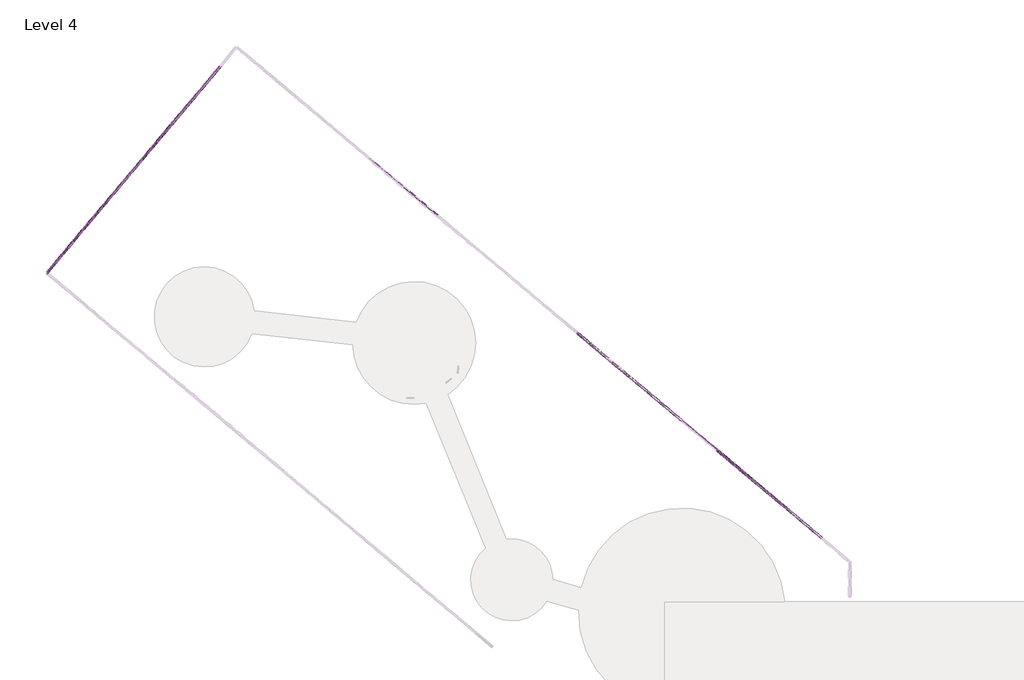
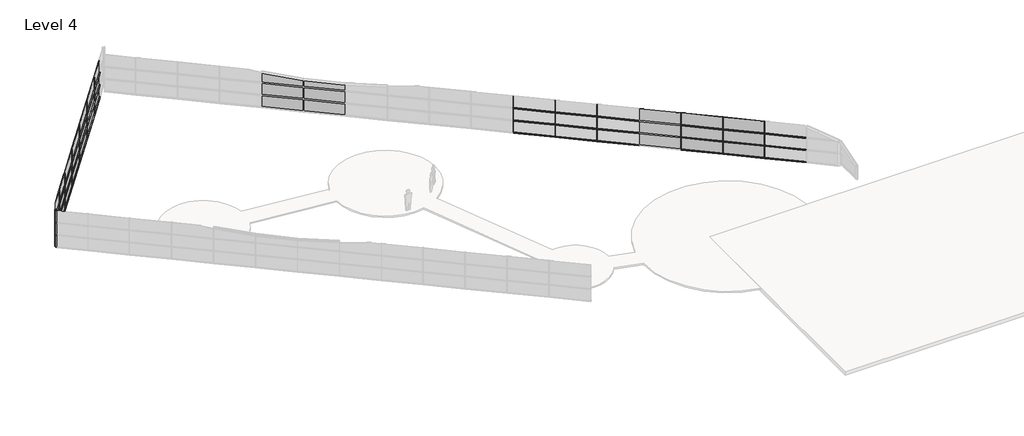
# One storey, part 3 of 4: 78 members, 36 plates.
"""IFC4 building model written with IfcOpenShell, lengths in millimetres."""

from ifc_helpers import new_model, si_unit, origin, place, context, project, spatial, transform, mapped, element, save
from components import member_e6b937b8, member_eaba9652, member_7cbddb58, member_117cba67, member_387caf8a, system_panel_glazed_a2c5a472, system_panel_glazed_3c43611c, system_panel_glazed_c349e88e, system_panel_glazed_d34325c2, system_panel_glazed_21f896d7

model = new_model("IFC4")

# Units and contexts
model_context = context("Model", 3, world=origin())
ifc_project = project(units=[si_unit("LENGTHUNIT", "METRE", prefix="MILLI")], contexts=[model_context])

# Site, building, storey
site = spatial("IfcSite", under=ifc_project)
building = spatial("IfcBuilding", under=site)
storey = spatial("IfcBuildingStorey", under=building, Name="Level 4", Elevation=9144.0)

# Members
placement = place(None, origin())
member_shape = member_e6b937b8(model_context)
element("IfcMember", 1, ObjectType="Rectangular Mullion : 1.5\" x 2.5\" rectangular", at=placement, inside=storey, context=model_context, shape_type="MappedRepresentation", body=[
    mapped(member_shape, transform((-58047.6752037, 33669.3461699, 11021.2974171), x_axis=(0.6427876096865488, 0.7660444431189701, 0.0), y_axis=(-0.7660444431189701, 0.6427876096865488, 0.0), z_axis=(0.0, 0.0, 1.0))),
])
element("IfcMember", 2, ObjectType="Rectangular Mullion : 1.5\" x 2.5\" rectangular", at=placement, inside=storey, context=model_context, shape_type="MappedRepresentation", body=[
    mapped(member_shape, transform((-56676.2235597, 35303.7785937, 11021.2974171), x_axis=(0.6427876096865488, 0.7660444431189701, 0.0), y_axis=(-0.7660444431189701, 0.6427876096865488, 0.0), z_axis=(0.0, 0.0, 1.0))),
])
element("IfcMember", 3, ObjectType="Rectangular Mullion : 1.5\" x 2.5\" rectangular", at=placement, inside=storey, context=model_context, shape_type="MappedRepresentation", body=[
    mapped(member_shape, transform((-54717.0069254, 37638.6820564, 11021.2974171), x_axis=(0.6427876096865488, 0.7660444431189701, 0.0), y_axis=(-0.7660444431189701, 0.6427876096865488, 0.0), z_axis=(0.0, 0.0, 1.0))),
])
element("IfcMember", 4, ObjectType="Rectangular Mullion : 1.5\" x 2.5\" rectangular", at=placement, inside=storey, context=model_context, shape_type="MappedRepresentation", body=[
    mapped(member_shape, transform((-52757.790291, 39973.585519, 11021.2974171), x_axis=(0.6427876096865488, 0.7660444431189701, 0.0), y_axis=(-0.7660444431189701, 0.6427876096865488, 0.0), z_axis=(0.0, 0.0, 1.0))),
])
element("IfcMember", 5, ObjectType="Rectangular Mullion : 1.5\" x 2.5\" rectangular", at=placement, inside=storey, context=model_context, shape_type="MappedRepresentation", body=[
    mapped(member_shape, transform((-58047.6752037, 33669.3461699, 12088.0974171), x_axis=(0.6427876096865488, 0.7660444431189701, 0.0), y_axis=(-0.7660444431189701, 0.6427876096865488, 0.0), z_axis=(0.0, 0.0, 1.0))),
])
element("IfcMember", 6, ObjectType="Rectangular Mullion : 1.5\" x 2.5\" rectangular", at=placement, inside=storey, context=model_context, shape_type="MappedRepresentation", body=[
    mapped(member_shape, transform((-56676.2235597, 35303.7785937, 12088.0974171), x_axis=(0.6427876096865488, 0.7660444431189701, 0.0), y_axis=(-0.7660444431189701, 0.6427876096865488, 0.0), z_axis=(0.0, 0.0, 1.0))),
])
element("IfcMember", 7, ObjectType="Rectangular Mullion : 1.5\" x 2.5\" rectangular", at=placement, inside=storey, context=model_context, shape_type="MappedRepresentation", body=[
    mapped(member_shape, transform((-54717.0069254, 37638.6820564, 12088.0974171), x_axis=(0.6427876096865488, 0.7660444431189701, 0.0), y_axis=(-0.7660444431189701, 0.6427876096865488, 0.0), z_axis=(0.0, 0.0, 1.0))),
])
element("IfcMember", 8, ObjectType="Rectangular Mullion : 1.5\" x 2.5\" rectangular", at=placement, inside=storey, context=model_context, shape_type="MappedRepresentation", body=[
    mapped(member_shape, transform((-52757.790291, 39973.585519, 12088.0974171), x_axis=(0.6427876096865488, 0.7660444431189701, 0.0), y_axis=(-0.7660444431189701, 0.6427876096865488, 0.0), z_axis=(0.0, 0.0, 1.0))),
])
element("IfcMember", 9, ObjectType="Rectangular Mullion : 1.5\" x 2.5\" rectangular", at=placement, inside=storey, context=model_context, shape_type="MappedRepresentation", body=[
    mapped(member_shape, transform((-58047.6752037, 33669.3461699, 13154.8974171), x_axis=(0.6427876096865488, 0.7660444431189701, 0.0), y_axis=(-0.7660444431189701, 0.6427876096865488, 0.0), z_axis=(0.0, 0.0, 1.0))),
])
element("IfcMember", 10, ObjectType="Rectangular Mullion : 1.5\" x 2.5\" rectangular", at=placement, inside=storey, context=model_context, shape_type="MappedRepresentation", body=[
    mapped(member_shape, transform((-56676.2235597, 35303.7785937, 13154.8974171), x_axis=(0.6427876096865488, 0.7660444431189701, 0.0), y_axis=(-0.7660444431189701, 0.6427876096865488, 0.0), z_axis=(0.0, 0.0, 1.0))),
])
element("IfcMember", 11, ObjectType="Rectangular Mullion : 1.5\" x 2.5\" rectangular", at=placement, inside=storey, context=model_context, shape_type="MappedRepresentation", body=[
    mapped(member_shape, transform((-54717.0069254, 37638.6820564, 13154.8974171), x_axis=(0.6427876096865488, 0.7660444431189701, 0.0), y_axis=(-0.7660444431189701, 0.6427876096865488, 0.0), z_axis=(0.0, 0.0, 1.0))),
])
element("IfcMember", 12, ObjectType="Rectangular Mullion : 1.5\" x 2.5\" rectangular", at=placement, inside=storey, context=model_context, shape_type="MappedRepresentation", body=[
    mapped(member_shape, transform((-52757.790291, 39973.585519, 13154.8974171), x_axis=(0.6427876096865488, 0.7660444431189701, 0.0), y_axis=(-0.7660444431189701, 0.6427876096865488, 0.0), z_axis=(0.0, 0.0, 1.0))),
])
element("IfcMember", 13, ObjectType="Rectangular Mullion : 1.5\" x 2.5\" rectangular", at=placement, inside=storey, context=model_context, shape_type="MappedRepresentation", body=[
    mapped(member_shape, transform((-50798.5736567, 42308.4889816, 11021.2974171), x_axis=(0.6427876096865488, 0.7660444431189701, 0.0), y_axis=(-0.7660444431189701, 0.6427876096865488, 0.0), z_axis=(0.0, 0.0, 1.0))),
])
element("IfcMember", 14, ObjectType="Rectangular Mullion : 1.5\" x 2.5\" rectangular", at=placement, inside=storey, context=model_context, shape_type="MappedRepresentation", body=[
    mapped(member_shape, transform((-48839.3570224, 44643.3924442, 11021.2974171), x_axis=(0.6427876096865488, 0.7660444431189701, 0.0), y_axis=(-0.7660444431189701, 0.6427876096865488, 0.0), z_axis=(0.0, 0.0, 1.0))),
])
element("IfcMember", 15, ObjectType="Rectangular Mullion : 1.5\" x 2.5\" rectangular", at=placement, inside=storey, context=model_context, shape_type="MappedRepresentation", body=[
    mapped(member_shape, transform((-50798.5736567, 42308.4889816, 12088.0974171), x_axis=(0.6427876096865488, 0.7660444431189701, 0.0), y_axis=(-0.7660444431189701, 0.6427876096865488, 0.0), z_axis=(0.0, 0.0, 1.0))),
])
element("IfcMember", 16, ObjectType="Rectangular Mullion : 1.5\" x 2.5\" rectangular", at=placement, inside=storey, context=model_context, shape_type="MappedRepresentation", body=[
    mapped(member_shape, transform((-48839.3570224, 44643.3924442, 12088.0974171), x_axis=(0.6427876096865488, 0.7660444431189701, 0.0), y_axis=(-0.7660444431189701, 0.6427876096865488, 0.0), z_axis=(0.0, 0.0, 1.0))),
])
element("IfcMember", 17, ObjectType="Rectangular Mullion : 1.5\" x 2.5\" rectangular", at=placement, inside=storey, context=model_context, shape_type="MappedRepresentation", body=[
    mapped(member_shape, transform((-50798.5736567, 42308.4889816, 13154.8974171), x_axis=(0.6427876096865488, 0.7660444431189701, 0.0), y_axis=(-0.7660444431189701, 0.6427876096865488, 0.0), z_axis=(0.0, 0.0, 1.0))),
])
element("IfcMember", 18, ObjectType="Rectangular Mullion : 1.5\" x 2.5\" rectangular", at=placement, inside=storey, context=model_context, shape_type="MappedRepresentation", body=[
    mapped(member_shape, transform((-48839.3570224, 44643.3924442, 13154.8974171), x_axis=(0.6427876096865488, 0.7660444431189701, 0.0), y_axis=(-0.7660444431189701, 0.6427876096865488, 0.0), z_axis=(0.0, 0.0, 1.0))),
])
element("IfcMember", 19, ObjectType="Rectangular Mullion : 1.5\" x 2.5\" rectangular", at=placement, inside=storey, context=model_context, shape_type="MappedRepresentation", body=[
    mapped(member_shape, transform((-23592.0192741, 28385.3349072, 10400.7444177), x_axis=(0.76604444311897, -0.6427876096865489, 0.0), y_axis=(0.6427876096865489, 0.76604444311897, 0.0), z_axis=(0.0, 0.0, 1.0))),
])
element("IfcMember", 20, ObjectType="Rectangular Mullion : 1.5\" x 2.5\" rectangular", at=placement, inside=storey, context=model_context, shape_type="MappedRepresentation", body=[
    mapped(member_shape, transform((-21257.1158115, 26426.1182729, 10400.7444177), x_axis=(0.76604444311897, -0.6427876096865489, 0.0), y_axis=(0.6427876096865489, 0.76604444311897, 0.0), z_axis=(0.0, 0.0, 1.0))),
])
element("IfcMember", 21, ObjectType="Rectangular Mullion : 1.5\" x 2.5\" rectangular", at=placement, inside=storey, context=model_context, shape_type="MappedRepresentation", body=[
    mapped(member_shape, transform((-23592.0192741, 28385.3349072, 11467.5444177), x_axis=(0.76604444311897, -0.6427876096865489, 0.0), y_axis=(0.6427876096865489, 0.76604444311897, 0.0), z_axis=(0.0, 0.0, 1.0))),
])
element("IfcMember", 22, ObjectType="Rectangular Mullion : 1.5\" x 2.5\" rectangular", at=placement, inside=storey, context=model_context, shape_type="MappedRepresentation", body=[
    mapped(member_shape, transform((-21257.1158115, 26426.1182729, 11467.5444177), x_axis=(0.76604444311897, -0.6427876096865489, 0.0), y_axis=(0.6427876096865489, 0.76604444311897, 0.0), z_axis=(0.0, 0.0, 1.0))),
])
element("IfcMember", 23, ObjectType="Rectangular Mullion : 1.5\" x 2.5\" rectangular", at=placement, inside=storey, context=model_context, shape_type="MappedRepresentation", body=[
    mapped(member_shape, transform((-23592.0192741, 28385.3349072, 12534.3444177), x_axis=(0.76604444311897, -0.6427876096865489, 0.0), y_axis=(0.6427876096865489, 0.76604444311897, 0.0), z_axis=(0.0, 0.0, 1.0))),
])
element("IfcMember", 24, ObjectType="Rectangular Mullion : 1.5\" x 2.5\" rectangular", at=placement, inside=storey, context=model_context, shape_type="MappedRepresentation", body=[
    mapped(member_shape, transform((-21257.1158115, 26426.1182729, 12534.3444177), x_axis=(0.76604444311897, -0.6427876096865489, 0.0), y_axis=(0.6427876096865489, 0.76604444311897, 0.0), z_axis=(0.0, 0.0, 1.0))),
])
element("IfcMember", 25, ObjectType="Rectangular Mullion : 1.5\" x 2.5\" rectangular", at=placement, inside=storey, context=model_context, shape_type="MappedRepresentation", body=[
    mapped(member_shape, transform((-18922.2123489, 24466.9016385, 10400.7444177), x_axis=(0.76604444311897, -0.6427876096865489, 0.0), y_axis=(0.6427876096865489, 0.76604444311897, 0.0), z_axis=(0.0, 0.0, 1.0))),
])
element("IfcMember", 26, ObjectType="Rectangular Mullion : 1.5\" x 2.5\" rectangular", at=placement, inside=storey, context=model_context, shape_type="MappedRepresentation", body=[
    mapped(member_shape, transform((-14252.4054236, 20548.4683699, 10400.7444177), x_axis=(0.76604444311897, -0.6427876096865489, 0.0), y_axis=(0.6427876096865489, 0.76604444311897, 0.0), z_axis=(0.0, 0.0, 1.0))),
])
element("IfcMember", 27, ObjectType="Rectangular Mullion : 1.5\" x 2.5\" rectangular", at=placement, inside=storey, context=model_context, shape_type="MappedRepresentation", body=[
    mapped(member_shape, transform((-11917.501961, 18589.2517356, 10400.7444177), x_axis=(0.76604444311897, -0.6427876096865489, 0.0), y_axis=(0.6427876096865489, 0.76604444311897, 0.0), z_axis=(0.0, 0.0, 1.0))),
])
element("IfcMember", 28, ObjectType="Rectangular Mullion : 1.5\" x 2.5\" rectangular", at=placement, inside=storey, context=model_context, shape_type="MappedRepresentation", body=[
    mapped(member_shape, transform((-9582.5984984, 16630.0351012, 10400.7444177), x_axis=(0.76604444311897, -0.6427876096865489, 0.0), y_axis=(0.6427876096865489, 0.76604444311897, 0.0), z_axis=(0.0, 0.0, 1.0))),
])
element("IfcMember", 29, ObjectType="Rectangular Mullion : 1.5\" x 2.5\" rectangular", at=placement, inside=storey, context=model_context, shape_type="MappedRepresentation", body=[
    mapped(member_shape, transform((-18922.2123489, 24466.9016385, 11467.5444177), x_axis=(0.76604444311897, -0.6427876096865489, 0.0), y_axis=(0.6427876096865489, 0.76604444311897, 0.0), z_axis=(0.0, 0.0, 1.0))),
])
element("IfcMember", 30, ObjectType="Rectangular Mullion : 1.5\" x 2.5\" rectangular", at=placement, inside=storey, context=model_context, shape_type="MappedRepresentation", body=[
    mapped(member_shape, transform((-14252.4054236, 20548.4683699, 11467.5444177), x_axis=(0.76604444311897, -0.6427876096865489, 0.0), y_axis=(0.6427876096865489, 0.76604444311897, 0.0), z_axis=(0.0, 0.0, 1.0))),
])
element("IfcMember", 31, ObjectType="Rectangular Mullion : 1.5\" x 2.5\" rectangular", at=placement, inside=storey, context=model_context, shape_type="MappedRepresentation", body=[
    mapped(member_shape, transform((-11917.501961, 18589.2517356, 11467.5444177), x_axis=(0.76604444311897, -0.6427876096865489, 0.0), y_axis=(0.6427876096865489, 0.76604444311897, 0.0), z_axis=(0.0, 0.0, 1.0))),
])
element("IfcMember", 32, ObjectType="Rectangular Mullion : 1.5\" x 2.5\" rectangular", at=placement, inside=storey, context=model_context, shape_type="MappedRepresentation", body=[
    mapped(member_shape, transform((-9582.5984984, 16630.0351012, 11467.5444177), x_axis=(0.76604444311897, -0.6427876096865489, 0.0), y_axis=(0.6427876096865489, 0.76604444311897, 0.0), z_axis=(0.0, 0.0, 1.0))),
])
element("IfcMember", 33, ObjectType="Rectangular Mullion : 1.5\" x 2.5\" rectangular", at=placement, inside=storey, context=model_context, shape_type="MappedRepresentation", body=[
    mapped(member_shape, transform((-18922.2123489, 24466.9016385, 12534.3444177), x_axis=(0.76604444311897, -0.6427876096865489, 0.0), y_axis=(0.6427876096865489, 0.76604444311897, 0.0), z_axis=(0.0, 0.0, 1.0))),
])
element("IfcMember", 34, ObjectType="Rectangular Mullion : 1.5\" x 2.5\" rectangular", at=placement, inside=storey, context=model_context, shape_type="MappedRepresentation", body=[
    mapped(member_shape, transform((-14252.4054236, 20548.4683699, 12534.3444177), x_axis=(0.76604444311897, -0.6427876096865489, 0.0), y_axis=(0.6427876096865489, 0.76604444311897, 0.0), z_axis=(0.0, 0.0, 1.0))),
])
element("IfcMember", 35, ObjectType="Rectangular Mullion : 1.5\" x 2.5\" rectangular", at=placement, inside=storey, context=model_context, shape_type="MappedRepresentation", body=[
    mapped(member_shape, transform((-11917.501961, 18589.2517356, 12534.3444177), x_axis=(0.76604444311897, -0.6427876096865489, 0.0), y_axis=(0.6427876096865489, 0.76604444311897, 0.0), z_axis=(0.0, 0.0, 1.0))),
])
element("IfcMember", 36, ObjectType="Rectangular Mullion : 1.5\" x 2.5\" rectangular", at=placement, inside=storey, context=model_context, shape_type="MappedRepresentation", body=[
    mapped(member_shape, transform((-9582.5984984, 16630.0351012, 12534.3444177), x_axis=(0.76604444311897, -0.6427876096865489, 0.0), y_axis=(0.6427876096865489, 0.76604444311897, 0.0), z_axis=(0.0, 0.0, 1.0))),
])
member_2_shape = member_eaba9652(model_context)
element("IfcMember", 37, ObjectType="Rectangular Mullion : 2.5\" x 5\" rectangular", at=placement, inside=storey, context=model_context, shape_type="MappedRepresentation", body=[
    mapped(member_2_shape, transform((-56676.2235597, 35303.7785937, 9986.2474171), x_axis=(0.0, 0.0, 1.0), y_axis=(-0.7660444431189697, 0.6427876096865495, 0.0), z_axis=(-0.6427876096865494, -0.7660444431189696, 0.0))),
])
element("IfcMember", 38, ObjectType="Rectangular Mullion : 2.5\" x 5\" rectangular", at=placement, inside=storey, context=model_context, shape_type="MappedRepresentation", body=[
    mapped(member_2_shape, transform((-54717.0069254, 37638.6820564, 9986.2474171), x_axis=(0.0, 0.0, 1.0), y_axis=(-0.7660444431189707, 0.6427876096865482, 0.0), z_axis=(-0.6427876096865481, -0.7660444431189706, 0.0))),
])
element("IfcMember", 39, ObjectType="Rectangular Mullion : 2.5\" x 5\" rectangular", at=placement, inside=storey, context=model_context, shape_type="MappedRepresentation", body=[
    mapped(member_2_shape, transform((-52757.790291, 39973.585519, 9986.2474171), x_axis=(0.0, 0.0, 1.0), y_axis=(-0.76604444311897, 0.642787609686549, 0.0), z_axis=(-0.6427876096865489, -0.7660444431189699, 0.0))),
])
element("IfcMember", 40, ObjectType="Rectangular Mullion : 2.5\" x 5\" rectangular", at=placement, inside=storey, context=model_context, shape_type="MappedRepresentation", body=[
    mapped(member_2_shape, transform((-56676.2235597, 35303.7785937, 11053.0474171), x_axis=(0.0, 0.0, 1.0), y_axis=(-0.7660444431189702, 0.6427876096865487, 0.0), z_axis=(-0.6427876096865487, -0.7660444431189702, 0.0))),
])
element("IfcMember", 41, ObjectType="Rectangular Mullion : 2.5\" x 5\" rectangular", at=placement, inside=storey, context=model_context, shape_type="MappedRepresentation", body=[
    mapped(member_2_shape, transform((-54717.0069254, 37638.6820564, 11053.0474171), x_axis=(0.0, 0.0, 1.0), y_axis=(-0.76604444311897, 0.642787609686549, 0.0), z_axis=(-0.6427876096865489, -0.7660444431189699, 0.0))),
])
element("IfcMember", 42, ObjectType="Rectangular Mullion : 2.5\" x 5\" rectangular", at=placement, inside=storey, context=model_context, shape_type="MappedRepresentation", body=[
    mapped(member_2_shape, transform((-52757.790291, 39973.585519, 11053.0474171), x_axis=(0.0, 0.0, 1.0), y_axis=(-0.76604444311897, 0.642787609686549, 0.0), z_axis=(-0.6427876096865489, -0.7660444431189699, 0.0))),
])
element("IfcMember", 43, ObjectType="Rectangular Mullion : 2.5\" x 5\" rectangular", at=placement, inside=storey, context=model_context, shape_type="MappedRepresentation", body=[
    mapped(member_2_shape, transform((-56676.2235597, 35303.7785937, 12119.8474171), x_axis=(0.0, 0.0, 1.0), y_axis=(-0.7660444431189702, 0.6427876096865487, 0.0), z_axis=(-0.6427876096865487, -0.7660444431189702, 0.0))),
])
element("IfcMember", 44, ObjectType="Rectangular Mullion : 2.5\" x 5\" rectangular", at=placement, inside=storey, context=model_context, shape_type="MappedRepresentation", body=[
    mapped(member_2_shape, transform((-54717.0069254, 37638.6820564, 12119.8474171), x_axis=(0.0, 0.0, 1.0), y_axis=(-0.76604444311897, 0.642787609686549, 0.0), z_axis=(-0.6427876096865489, -0.7660444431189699, 0.0))),
])
element("IfcMember", 45, ObjectType="Rectangular Mullion : 2.5\" x 5\" rectangular", at=placement, inside=storey, context=model_context, shape_type="MappedRepresentation", body=[
    mapped(member_2_shape, transform((-52757.790291, 39973.585519, 12119.8474171), x_axis=(0.0, 0.0, 1.0), y_axis=(-0.76604444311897, 0.642787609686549, 0.0), z_axis=(-0.6427876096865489, -0.7660444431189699, 0.0))),
])
element("IfcMember", 46, ObjectType="Rectangular Mullion : 2.5\" x 5\" rectangular", at=placement, inside=storey, context=model_context, shape_type="MappedRepresentation", body=[
    mapped(member_2_shape, transform((-50798.5736567, 42308.4889816, 9986.2474171), x_axis=(0.0, 0.0, 1.0), y_axis=(-0.766044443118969, 0.64278760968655, 0.0), z_axis=(-0.64278760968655, -0.766044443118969, 0.0))),
])
element("IfcMember", 47, ObjectType="Rectangular Mullion : 2.5\" x 5\" rectangular", at=placement, inside=storey, context=model_context, shape_type="MappedRepresentation", body=[
    mapped(member_2_shape, transform((-50798.5736567, 42308.4889816, 11053.0474171), x_axis=(0.0, 0.0, 1.0), y_axis=(-0.766044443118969, 0.64278760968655, 0.0), z_axis=(-0.64278760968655, -0.766044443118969, 0.0))),
])
element("IfcMember", 48, ObjectType="Rectangular Mullion : 2.5\" x 5\" rectangular", at=placement, inside=storey, context=model_context, shape_type="MappedRepresentation", body=[
    mapped(member_2_shape, transform((-50798.5736567, 42308.4889816, 12119.8474171), x_axis=(0.0, 0.0, 1.0), y_axis=(-0.766044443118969, 0.64278760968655, 0.0), z_axis=(-0.64278760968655, -0.766044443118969, 0.0))),
])
element("IfcMember", 49, ObjectType="Rectangular Mullion : 2.5\" x 5\" rectangular", at=placement, inside=storey, context=model_context, shape_type="MappedRepresentation", body=[
    mapped(member_2_shape, transform((-23592.0192741, 28385.3349072, 9365.6944177), x_axis=(0.0, 0.0, 1.0), y_axis=(0.64278760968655, 0.766044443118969, 0.0), z_axis=(-0.766044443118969, 0.64278760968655, 0.0))),
])
element("IfcMember", 50, ObjectType="Rectangular Mullion : 2.5\" x 5\" rectangular", at=placement, inside=storey, context=model_context, shape_type="MappedRepresentation", body=[
    mapped(member_2_shape, transform((-21257.1158115, 26426.1182729, 9365.6944177), x_axis=(0.0, 0.0, 1.0), y_axis=(0.6427876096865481, 0.7660444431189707, 0.0), z_axis=(-0.7660444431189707, 0.6427876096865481, 0.0))),
])
element("IfcMember", 51, ObjectType="Rectangular Mullion : 2.5\" x 5\" rectangular", at=placement, inside=storey, context=model_context, shape_type="MappedRepresentation", body=[
    mapped(member_2_shape, transform((-23592.0192741, 28385.3349072, 10432.4944177), x_axis=(0.0, 0.0, 1.0), y_axis=(0.64278760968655, 0.766044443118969, 0.0), z_axis=(-0.766044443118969, 0.64278760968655, 0.0))),
])
element("IfcMember", 52, ObjectType="Rectangular Mullion : 2.5\" x 5\" rectangular", at=placement, inside=storey, context=model_context, shape_type="MappedRepresentation", body=[
    mapped(member_2_shape, transform((-21257.1158115, 26426.1182729, 10432.4944177), x_axis=(0.0, 0.0, 1.0), y_axis=(0.6427876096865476, 0.7660444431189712, 0.0), z_axis=(-0.7660444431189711, 0.6427876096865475, 0.0))),
])
element("IfcMember", 53, ObjectType="Rectangular Mullion : 2.5\" x 5\" rectangular", at=placement, inside=storey, context=model_context, shape_type="MappedRepresentation", body=[
    mapped(member_2_shape, transform((-23592.0192741, 28385.3349072, 11499.2944177), x_axis=(0.0, 0.0, 1.0), y_axis=(0.64278760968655, 0.766044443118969, 0.0), z_axis=(-0.766044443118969, 0.64278760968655, 0.0))),
])
element("IfcMember", 54, ObjectType="Rectangular Mullion : 2.5\" x 5\" rectangular", at=placement, inside=storey, context=model_context, shape_type="MappedRepresentation", body=[
    mapped(member_2_shape, transform((-21257.1158115, 26426.1182729, 11499.2944177), x_axis=(0.0, 0.0, 1.0), y_axis=(0.6427876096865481, 0.7660444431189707, 0.0), z_axis=(-0.7660444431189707, 0.6427876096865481, 0.0))),
])
element("IfcMember", 55, ObjectType="Rectangular Mullion : 2.5\" x 5\" rectangular", at=placement, inside=storey, context=model_context, shape_type="MappedRepresentation", body=[
    mapped(member_2_shape, transform((-18922.2123489, 24466.9016385, 9365.6944177), x_axis=(0.0, 0.0, 1.0), y_axis=(0.6427876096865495, 0.7660444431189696, 0.0), z_axis=(-0.7660444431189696, 0.6427876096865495, 0.0))),
])
element("IfcMember", 56, ObjectType="Rectangular Mullion : 2.5\" x 5\" rectangular", at=placement, inside=storey, context=model_context, shape_type="MappedRepresentation", body=[
    mapped(member_2_shape, transform((-14252.4054236, 20548.4683699, 9365.6944177), x_axis=(0.0, 0.0, 1.0), y_axis=(0.642787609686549, 0.76604444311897, 0.0), z_axis=(-0.7660444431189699, 0.6427876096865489, 0.0))),
])
element("IfcMember", 57, ObjectType="Rectangular Mullion : 2.5\" x 5\" rectangular", at=placement, inside=storey, context=model_context, shape_type="MappedRepresentation", body=[
    mapped(member_2_shape, transform((-11917.501961, 18589.2517356, 9365.6944177), x_axis=(0.0, 0.0, 1.0), y_axis=(0.6427876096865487, 0.7660444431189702, 0.0), z_axis=(-0.7660444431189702, 0.6427876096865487, 0.0))),
])
element("IfcMember", 58, ObjectType="Rectangular Mullion : 2.5\" x 5\" rectangular", at=placement, inside=storey, context=model_context, shape_type="MappedRepresentation", body=[
    mapped(member_2_shape, transform((-9582.5984984, 16630.0351012, 9365.6944177), x_axis=(0.0, 0.0, 1.0), y_axis=(0.6427876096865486, 0.7660444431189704, 0.0), z_axis=(-0.7660444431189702, 0.6427876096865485, 0.0))),
])
element("IfcMember", 59, ObjectType="Rectangular Mullion : 2.5\" x 5\" rectangular", at=placement, inside=storey, context=model_context, shape_type="MappedRepresentation", body=[
    mapped(member_2_shape, transform((-18922.2123489, 24466.9016385, 10432.4944177), x_axis=(0.0, 0.0, 1.0), y_axis=(0.6427876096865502, 0.7660444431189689, 0.0), z_axis=(-0.7660444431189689, 0.6427876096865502, 0.0))),
])
element("IfcMember", 60, ObjectType="Rectangular Mullion : 2.5\" x 5\" rectangular", at=placement, inside=storey, context=model_context, shape_type="MappedRepresentation", body=[
    mapped(member_2_shape, transform((-14252.4054236, 20548.4683699, 10432.4944177), x_axis=(0.0, 0.0, 1.0), y_axis=(0.642787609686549, 0.76604444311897, 0.0), z_axis=(-0.7660444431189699, 0.6427876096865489, 0.0))),
])
element("IfcMember", 61, ObjectType="Rectangular Mullion : 2.5\" x 5\" rectangular", at=placement, inside=storey, context=model_context, shape_type="MappedRepresentation", body=[
    mapped(member_2_shape, transform((-11917.501961, 18589.2517356, 10432.4944177), x_axis=(0.0, 0.0, 1.0), y_axis=(0.6427876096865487, 0.7660444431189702, 0.0), z_axis=(-0.7660444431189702, 0.6427876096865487, 0.0))),
])
element("IfcMember", 62, ObjectType="Rectangular Mullion : 2.5\" x 5\" rectangular", at=placement, inside=storey, context=model_context, shape_type="MappedRepresentation", body=[
    mapped(member_2_shape, transform((-9582.5984984, 16630.0351012, 10432.4944177), x_axis=(0.0, 0.0, 1.0), y_axis=(0.6427876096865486, 0.7660444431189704, 0.0), z_axis=(-0.7660444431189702, 0.6427876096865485, 0.0))),
])
element("IfcMember", 63, ObjectType="Rectangular Mullion : 2.5\" x 5\" rectangular", at=placement, inside=storey, context=model_context, shape_type="MappedRepresentation", body=[
    mapped(member_2_shape, transform((-18922.2123489, 24466.9016385, 11499.2944177), x_axis=(0.0, 0.0, 1.0), y_axis=(0.6427876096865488, 0.7660444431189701, 0.0), z_axis=(-0.7660444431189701, 0.6427876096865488, 0.0))),
])
element("IfcMember", 64, ObjectType="Rectangular Mullion : 2.5\" x 5\" rectangular", at=placement, inside=storey, context=model_context, shape_type="MappedRepresentation", body=[
    mapped(member_2_shape, transform((-14252.4054236, 20548.4683699, 11499.2944177), x_axis=(0.0, 0.0, 1.0), y_axis=(0.642787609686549, 0.76604444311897, 0.0), z_axis=(-0.7660444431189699, 0.6427876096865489, 0.0))),
])
element("IfcMember", 65, ObjectType="Rectangular Mullion : 2.5\" x 5\" rectangular", at=placement, inside=storey, context=model_context, shape_type="MappedRepresentation", body=[
    mapped(member_2_shape, transform((-11917.501961, 18589.2517356, 11499.2944177), x_axis=(0.0, 0.0, 1.0), y_axis=(0.6427876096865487, 0.7660444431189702, 0.0), z_axis=(-0.7660444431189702, 0.6427876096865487, 0.0))),
])
element("IfcMember", 66, ObjectType="Rectangular Mullion : 2.5\" x 5\" rectangular", at=placement, inside=storey, context=model_context, shape_type="MappedRepresentation", body=[
    mapped(member_2_shape, transform((-9582.5984984, 16630.0351012, 11499.2944177), x_axis=(0.0, 0.0, 1.0), y_axis=(0.6427876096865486, 0.7660444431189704, 0.0), z_axis=(-0.7660444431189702, 0.6427876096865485, 0.0))),
])
member_3_shape = member_7cbddb58(model_context)
element("IfcMember", 67, ObjectType="Rectangular Mullion : 2.5\" x 5\" rectangular", at=placement, inside=storey, context=model_context, shape_type="MappedRepresentation", body=[
    mapped(member_3_shape, transform((-58047.6752037, 33669.3461699, 9986.2474171), x_axis=(0.0, 0.0, 1.0), y_axis=(-0.766044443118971, 0.6427876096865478, 0.0), z_axis=(-0.6427876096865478, -0.766044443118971, 0.0))),
])
element("IfcMember", 68, ObjectType="Rectangular Mullion : 2.5\" x 5\" rectangular", at=placement, inside=storey, context=model_context, shape_type="MappedRepresentation", body=[
    mapped(member_3_shape, transform((-58047.6752037, 33669.3461699, 11053.0474171), x_axis=(0.0, 0.0, 1.0), y_axis=(-0.766044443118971, 0.6427876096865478, 0.0), z_axis=(-0.6427876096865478, -0.766044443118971, 0.0))),
])
element("IfcMember", 69, ObjectType="Rectangular Mullion : 2.5\" x 5\" rectangular", at=placement, inside=storey, context=model_context, shape_type="MappedRepresentation", body=[
    mapped(member_3_shape, transform((-58047.6752037, 33669.3461699, 12119.8474171), x_axis=(0.0, 0.0, 1.0), y_axis=(-0.766044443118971, 0.6427876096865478, 0.0), z_axis=(-0.6427876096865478, -0.766044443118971, 0.0))),
])
element("IfcMember", 70, ObjectType="Rectangular Mullion : 2.5\" x 5\" rectangular", at=placement, inside=storey, context=model_context, shape_type="MappedRepresentation", body=[
    mapped(member_3_shape, transform((-48839.3570224, 44643.3924442, 9986.2474171), x_axis=(0.0, 0.0, 1.0), y_axis=(-0.766044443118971, 0.6427876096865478, 0.0), z_axis=(-0.6427876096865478, -0.766044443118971, 0.0))),
])
element("IfcMember", 71, ObjectType="Rectangular Mullion : 2.5\" x 5\" rectangular", at=placement, inside=storey, context=model_context, shape_type="MappedRepresentation", body=[
    mapped(member_3_shape, transform((-48839.3570224, 44643.3924442, 11053.0474171), x_axis=(0.0, 0.0, 1.0), y_axis=(-0.766044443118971, 0.6427876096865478, 0.0), z_axis=(-0.6427876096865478, -0.766044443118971, 0.0))),
])
element("IfcMember", 72, ObjectType="Rectangular Mullion : 2.5\" x 5\" rectangular", at=placement, inside=storey, context=model_context, shape_type="MappedRepresentation", body=[
    mapped(member_3_shape, transform((-48839.3570224, 44643.3924442, 12119.8474171), x_axis=(0.0, 0.0, 1.0), y_axis=(-0.766044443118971, 0.6427876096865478, 0.0), z_axis=(-0.6427876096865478, -0.766044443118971, 0.0))),
])
member_4_shape = member_117cba67(model_context)
element("IfcMember", 73, ObjectType="Rectangular Mullion : 2.5\" x 5\" rectangular", at=placement, inside=storey, context=model_context, shape_type="MappedRepresentation", body=[
    mapped(member_4_shape, transform((-59041.0592628, 32485.4771486, 9986.2474171), x_axis=(0.0, 0.0, 1.0), y_axis=(-0.76604444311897, 0.6427876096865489, 0.0), z_axis=(-0.6427876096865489, -0.76604444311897, 0.0))),
])
element("IfcMember", 74, ObjectType="Rectangular Mullion : 2.5\" x 5\" rectangular", at=placement, inside=storey, context=model_context, shape_type="MappedRepresentation", body=[
    mapped(member_4_shape, transform((-59041.0592628, 32485.4771486, 11053.0474171), x_axis=(0.0, 0.0, 1.0), y_axis=(-0.766044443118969, 0.6427876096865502, 0.0), z_axis=(-0.6427876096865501, -0.7660444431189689, 0.0))),
])
element("IfcMember", 75, ObjectType="Rectangular Mullion : 2.5\" x 5\" rectangular", at=placement, inside=storey, context=model_context, shape_type="MappedRepresentation", body=[
    mapped(member_4_shape, transform((-59041.0592628, 32485.4771486, 12119.8474171), x_axis=(0.0, 0.0, 1.0), y_axis=(-0.766044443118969, 0.6427876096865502, 0.0), z_axis=(-0.6427876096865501, -0.7660444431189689, 0.0))),
])
member_5_shape = member_387caf8a(model_context)
element("IfcMember", 76, ObjectType="V Corner Mullion : 5\" V Corner", at=placement, inside=storey, context=model_context, shape_type="MappedRepresentation", body=[
    mapped(member_5_shape, transform((-59102.2847827, 32412.5114154, 10432.4944177), x_axis=(-0.76604444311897, 0.6427876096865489, 0.0), y_axis=(-0.6427876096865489, -0.76604444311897, 0.0), z_axis=(0.0, 0.0, 1.0))),
])
element("IfcMember", 77, ObjectType="V Corner Mullion : 5\" V Corner", at=placement, inside=storey, context=model_context, shape_type="MappedRepresentation", body=[
    mapped(member_5_shape, transform((-59102.2847827, 32412.5114154, 11499.2944177), x_axis=(-0.76604444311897, 0.6427876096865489, 0.0), y_axis=(-0.6427876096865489, -0.76604444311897, 0.0), z_axis=(0.0, 0.0, 1.0))),
])
element("IfcMember", 78, ObjectType="V Corner Mullion : 5\" V Corner", at=placement, inside=storey, context=model_context, shape_type="MappedRepresentation", body=[
    mapped(member_5_shape, transform((-59102.2847827, 32412.5114154, 12566.0944177), x_axis=(-0.76604444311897, 0.6427876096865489, 0.0), y_axis=(-0.6427876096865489, -0.76604444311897, 0.0), z_axis=(0.0, 0.0, 1.0))),
])

# Plates
system_panel_glazed_shape = system_panel_glazed_a2c5a472(model_context)
element("IfcPlate", 79, ObjectType="System Panel : Glazed", at=placement, inside=storey, context=model_context, shape_type="MappedRepresentation", body=[
    mapped(system_panel_glazed_shape, transform((-36433.9883186, 39161.026396, 9397.4444177), x_axis=(0.76604444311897, -0.6427876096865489, 0.0), y_axis=(0.6427876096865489, 0.76604444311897, 0.0), z_axis=(0.0, 0.0, 1.0))),
])
element("IfcPlate", 80, ObjectType="System Panel : Glazed", at=placement, inside=storey, context=model_context, shape_type="MappedRepresentation", body=[
    mapped(system_panel_glazed_shape, transform((-34099.0848559, 37201.8097616, 9397.4444177), x_axis=(0.76604444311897, -0.6427876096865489, 0.0), y_axis=(0.6427876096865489, 0.76604444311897, 0.0), z_axis=(0.0, 0.0, 1.0))),
])
element("IfcPlate", 81, ObjectType="System Panel : Glazed", at=placement, inside=storey, context=model_context, shape_type="MappedRepresentation", body=[
    mapped(system_panel_glazed_shape, transform((-36433.9883186, 39161.026396, 10464.2444177), x_axis=(0.76604444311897, -0.6427876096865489, 0.0), y_axis=(0.6427876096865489, 0.76604444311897, 0.0), z_axis=(0.0, 0.0, 1.0))),
])
element("IfcPlate", 82, ObjectType="System Panel : Glazed", at=placement, inside=storey, context=model_context, shape_type="MappedRepresentation", body=[
    mapped(system_panel_glazed_shape, transform((-34099.0848559, 37201.8097616, 10464.2444177), x_axis=(0.76604444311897, -0.6427876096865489, 0.0), y_axis=(0.6427876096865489, 0.76604444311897, 0.0), z_axis=(0.0, 0.0, 1.0))),
])
element("IfcPlate", 83, ObjectType="System Panel : Glazed", at=placement, inside=storey, context=model_context, shape_type="MappedRepresentation", body=[
    mapped(system_panel_glazed_shape, transform((-55696.6152425, 36471.230325, 10017.9974171), x_axis=(0.6427876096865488, 0.7660444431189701, 0.0), y_axis=(-0.7660444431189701, 0.6427876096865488, 0.0), z_axis=(0.0, 0.0, 1.0))),
])
element("IfcPlate", 84, ObjectType="System Panel : Glazed", at=placement, inside=storey, context=model_context, shape_type="MappedRepresentation", body=[
    mapped(system_panel_glazed_shape, transform((-53737.3986082, 38806.1337877, 10017.9974171), x_axis=(0.6427876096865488, 0.7660444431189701, 0.0), y_axis=(-0.7660444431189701, 0.6427876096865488, 0.0), z_axis=(0.0, 0.0, 1.0))),
])
element("IfcPlate", 85, ObjectType="System Panel : Glazed", at=placement, inside=storey, context=model_context, shape_type="MappedRepresentation", body=[
    mapped(system_panel_glazed_shape, transform((-51778.1819739, 41141.0372503, 10017.9974171), x_axis=(0.6427876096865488, 0.7660444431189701, 0.0), y_axis=(-0.7660444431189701, 0.6427876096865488, 0.0), z_axis=(0.0, 0.0, 1.0))),
])
element("IfcPlate", 86, ObjectType="System Panel : Glazed", at=placement, inside=storey, context=model_context, shape_type="MappedRepresentation", body=[
    mapped(system_panel_glazed_shape, transform((-55696.6152425, 36471.230325, 11084.7974171), x_axis=(0.6427876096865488, 0.7660444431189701, 0.0), y_axis=(-0.7660444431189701, 0.6427876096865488, 0.0), z_axis=(0.0, 0.0, 1.0))),
])
element("IfcPlate", 87, ObjectType="System Panel : Glazed", at=placement, inside=storey, context=model_context, shape_type="MappedRepresentation", body=[
    mapped(system_panel_glazed_shape, transform((-53737.3986082, 38806.1337877, 11084.7974171), x_axis=(0.6427876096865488, 0.7660444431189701, 0.0), y_axis=(-0.7660444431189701, 0.6427876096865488, 0.0), z_axis=(0.0, 0.0, 1.0))),
])
element("IfcPlate", 88, ObjectType="System Panel : Glazed", at=placement, inside=storey, context=model_context, shape_type="MappedRepresentation", body=[
    mapped(system_panel_glazed_shape, transform((-51778.1819739, 41141.0372503, 11084.7974171), x_axis=(0.6427876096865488, 0.7660444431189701, 0.0), y_axis=(-0.7660444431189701, 0.6427876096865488, 0.0), z_axis=(0.0, 0.0, 1.0))),
])
element("IfcPlate", 89, ObjectType="System Panel : Glazed", at=placement, inside=storey, context=model_context, shape_type="MappedRepresentation", body=[
    mapped(system_panel_glazed_shape, transform((-55696.6152425, 36471.230325, 12151.5974171), x_axis=(0.6427876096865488, 0.7660444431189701, 0.0), y_axis=(-0.7660444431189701, 0.6427876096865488, 0.0), z_axis=(0.0, 0.0, 1.0))),
])
element("IfcPlate", 90, ObjectType="System Panel : Glazed", at=placement, inside=storey, context=model_context, shape_type="MappedRepresentation", body=[
    mapped(system_panel_glazed_shape, transform((-53737.3986082, 38806.1337877, 12151.5974171), x_axis=(0.6427876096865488, 0.7660444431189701, 0.0), y_axis=(-0.7660444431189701, 0.6427876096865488, 0.0), z_axis=(0.0, 0.0, 1.0))),
])
element("IfcPlate", 91, ObjectType="System Panel : Glazed", at=placement, inside=storey, context=model_context, shape_type="MappedRepresentation", body=[
    mapped(system_panel_glazed_shape, transform((-51778.1819739, 41141.0372503, 12151.5974171), x_axis=(0.6427876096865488, 0.7660444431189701, 0.0), y_axis=(-0.7660444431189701, 0.6427876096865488, 0.0), z_axis=(0.0, 0.0, 1.0))),
])
element("IfcPlate", 92, ObjectType="System Panel : Glazed", at=placement, inside=storey, context=model_context, shape_type="MappedRepresentation", body=[
    mapped(system_panel_glazed_shape, transform((-15419.8571549, 21528.0766871, 9397.4444177), x_axis=(0.76604444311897, -0.6427876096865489, 0.0), y_axis=(0.6427876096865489, 0.76604444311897, 0.0), z_axis=(0.0, 0.0, 1.0))),
])
element("IfcPlate", 93, ObjectType="System Panel : Glazed", at=placement, inside=storey, context=model_context, shape_type="MappedRepresentation", body=[
    mapped(system_panel_glazed_shape, transform((-15419.8571549, 21528.0766871, 10464.2444177), x_axis=(0.76604444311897, -0.6427876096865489, 0.0), y_axis=(0.6427876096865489, 0.76604444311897, 0.0), z_axis=(0.0, 0.0, 1.0))),
])
element("IfcPlate", 94, ObjectType="System Panel : Glazed", at=placement, inside=storey, context=model_context, shape_type="MappedRepresentation", body=[
    mapped(system_panel_glazed_shape, transform((-15419.8571549, 21528.0766871, 11531.0444177), x_axis=(0.76604444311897, -0.6427876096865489, 0.0), y_axis=(0.6427876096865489, 0.76604444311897, 0.0), z_axis=(0.0, 0.0, 1.0))),
])
element("IfcPlate", 95, ObjectType="System Panel : Glazed", at=placement, inside=storey, context=model_context, shape_type="MappedRepresentation", body=[
    mapped(system_panel_glazed_shape, transform((-13084.9536923, 19568.8600527, 9397.4444177), x_axis=(0.76604444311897, -0.6427876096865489, 0.0), y_axis=(0.6427876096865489, 0.76604444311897, 0.0), z_axis=(0.0, 0.0, 1.0))),
])
element("IfcPlate", 96, ObjectType="System Panel : Glazed", at=placement, inside=storey, context=model_context, shape_type="MappedRepresentation", body=[
    mapped(system_panel_glazed_shape, transform((-13084.9536923, 19568.8600527, 10464.2444177), x_axis=(0.76604444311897, -0.6427876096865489, 0.0), y_axis=(0.6427876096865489, 0.76604444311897, 0.0), z_axis=(0.0, 0.0, 1.0))),
])
element("IfcPlate", 97, ObjectType="System Panel : Glazed", at=placement, inside=storey, context=model_context, shape_type="MappedRepresentation", body=[
    mapped(system_panel_glazed_shape, transform((-13084.9536923, 19568.8600527, 11531.0444177), x_axis=(0.76604444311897, -0.6427876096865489, 0.0), y_axis=(0.6427876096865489, 0.76604444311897, 0.0), z_axis=(0.0, 0.0, 1.0))),
])
element("IfcPlate", 98, ObjectType="System Panel : Glazed", at=placement, inside=storey, context=model_context, shape_type="MappedRepresentation", body=[
    mapped(system_panel_glazed_shape, transform((-10750.0502297, 17609.6434184, 9397.4444177), x_axis=(0.76604444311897, -0.6427876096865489, 0.0), y_axis=(0.6427876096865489, 0.76604444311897, 0.0), z_axis=(0.0, 0.0, 1.0))),
])
element("IfcPlate", 99, ObjectType="System Panel : Glazed", at=placement, inside=storey, context=model_context, shape_type="MappedRepresentation", body=[
    mapped(system_panel_glazed_shape, transform((-10750.0502297, 17609.6434184, 10464.2444177), x_axis=(0.76604444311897, -0.6427876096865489, 0.0), y_axis=(0.6427876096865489, 0.76604444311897, 0.0), z_axis=(0.0, 0.0, 1.0))),
])
element("IfcPlate", 100, ObjectType="System Panel : Glazed", at=placement, inside=storey, context=model_context, shape_type="MappedRepresentation", body=[
    mapped(system_panel_glazed_shape, transform((-10750.0502297, 17609.6434184, 11531.0444177), x_axis=(0.76604444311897, -0.6427876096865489, 0.0), y_axis=(0.6427876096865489, 0.76604444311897, 0.0), z_axis=(0.0, 0.0, 1.0))),
])
element("IfcPlate", 101, ObjectType="System Panel : Glazed", at=placement, inside=storey, context=model_context, shape_type="MappedRepresentation", body=[
    mapped(system_panel_glazed_shape, transform((-49818.9653396, 43475.9407129, 10017.9974171), x_axis=(0.6427876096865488, 0.7660444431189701, 0.0), y_axis=(-0.7660444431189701, 0.6427876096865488, 0.0), z_axis=(0.0, 0.0, 1.0))),
])
element("IfcPlate", 102, ObjectType="System Panel : Glazed", at=placement, inside=storey, context=model_context, shape_type="MappedRepresentation", body=[
    mapped(system_panel_glazed_shape, transform((-49818.9653396, 43475.9407129, 11084.7974171), x_axis=(0.6427876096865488, 0.7660444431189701, 0.0), y_axis=(-0.7660444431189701, 0.6427876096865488, 0.0), z_axis=(0.0, 0.0, 1.0))),
])
element("IfcPlate", 103, ObjectType="System Panel : Glazed", at=placement, inside=storey, context=model_context, shape_type="MappedRepresentation", body=[
    mapped(system_panel_glazed_shape, transform((-49818.9653396, 43475.9407129, 12151.5974171), x_axis=(0.6427876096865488, 0.7660444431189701, 0.0), y_axis=(-0.7660444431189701, 0.6427876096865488, 0.0), z_axis=(0.0, 0.0, 1.0))),
])
system_panel_glazed_2_shape = system_panel_glazed_3c43611c(model_context)
element("IfcPlate", 104, ObjectType="System Panel : Glazed", at=placement, inside=storey, context=model_context, shape_type="MappedRepresentation", body=[
    mapped(system_panel_glazed_2_shape, transform((-57361.9493817, 34486.5623818, 10017.9974171), x_axis=(0.6427876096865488, 0.7660444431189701, 0.0), y_axis=(-0.7660444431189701, 0.6427876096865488, 0.0), z_axis=(0.0, 0.0, 1.0))),
])
element("IfcPlate", 105, ObjectType="System Panel : Glazed", at=placement, inside=storey, context=model_context, shape_type="MappedRepresentation", body=[
    mapped(system_panel_glazed_2_shape, transform((-57361.9493817, 34486.5623818, 11084.7974171), x_axis=(0.6427876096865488, 0.7660444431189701, 0.0), y_axis=(-0.7660444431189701, 0.6427876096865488, 0.0), z_axis=(0.0, 0.0, 1.0))),
])
element("IfcPlate", 106, ObjectType="System Panel : Glazed", at=placement, inside=storey, context=model_context, shape_type="MappedRepresentation", body=[
    mapped(system_panel_glazed_2_shape, transform((-57361.9493817, 34486.5623818, 12151.5974171), x_axis=(0.6427876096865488, 0.7660444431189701, 0.0), y_axis=(-0.7660444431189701, 0.6427876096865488, 0.0), z_axis=(0.0, 0.0, 1.0))),
])
element("IfcPlate", 107, ObjectType="System Panel : Glazed", at=placement, inside=storey, context=model_context, shape_type="MappedRepresentation", body=[
    mapped(system_panel_glazed_2_shape, transform((-48153.6312004, 45460.6086562, 10017.9974171), x_axis=(0.6427876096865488, 0.7660444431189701, 0.0), y_axis=(-0.7660444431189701, 0.6427876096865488, 0.0), z_axis=(0.0, 0.0, 1.0))),
])
element("IfcPlate", 108, ObjectType="System Panel : Glazed", at=placement, inside=storey, context=model_context, shape_type="MappedRepresentation", body=[
    mapped(system_panel_glazed_2_shape, transform((-48153.6312004, 45460.6086562, 11084.7974171), x_axis=(0.6427876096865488, 0.7660444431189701, 0.0), y_axis=(-0.7660444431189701, 0.6427876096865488, 0.0), z_axis=(0.0, 0.0, 1.0))),
])
element("IfcPlate", 109, ObjectType="System Panel : Glazed", at=placement, inside=storey, context=model_context, shape_type="MappedRepresentation", body=[
    mapped(system_panel_glazed_2_shape, transform((-48153.6312004, 45460.6086562, 12151.5974171), x_axis=(0.6427876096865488, 0.7660444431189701, 0.0), y_axis=(-0.7660444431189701, 0.6427876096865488, 0.0), z_axis=(0.0, 0.0, 1.0))),
])
system_panel_glazed_3_shape = system_panel_glazed_c349e88e(model_context)
element("IfcPlate", 110, ObjectType="System Panel : Glazed", at=placement, inside=storey, context=model_context, shape_type="MappedRepresentation", body=[
    mapped(system_panel_glazed_3_shape, transform((-58550.4897853, 33070.1150859, 10017.9974171), x_axis=(0.6427876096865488, 0.7660444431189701, 0.0), y_axis=(-0.7660444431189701, 0.6427876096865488, 0.0), z_axis=(0.0, 0.0, 1.0))),
])
element("IfcPlate", 111, ObjectType="System Panel : Glazed", at=placement, inside=storey, context=model_context, shape_type="MappedRepresentation", body=[
    mapped(system_panel_glazed_3_shape, transform((-58550.4897853, 33070.1150859, 11084.7974171), x_axis=(0.6427876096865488, 0.7660444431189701, 0.0), y_axis=(-0.7660444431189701, 0.6427876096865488, 0.0), z_axis=(0.0, 0.0, 1.0))),
])
element("IfcPlate", 112, ObjectType="System Panel : Glazed", at=placement, inside=storey, context=model_context, shape_type="MappedRepresentation", body=[
    mapped(system_panel_glazed_3_shape, transform((-58550.4897853, 33070.1150859, 12151.5974171), x_axis=(0.6427876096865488, 0.7660444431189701, 0.0), y_axis=(-0.7660444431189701, 0.6427876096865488, 0.0), z_axis=(0.0, 0.0, 1.0))),
])
system_panel_glazed_4_shape = system_panel_glazed_d34325c2(model_context)
element("IfcPlate", 113, ObjectType="System Panel : Glazed", at=placement, inside=storey, context=model_context, shape_type="MappedRepresentation", body=[
    mapped(system_panel_glazed_4_shape, transform((-36433.9883186, 39161.026396, 11531.0444177), x_axis=(0.76604444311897, -0.6427876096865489, 0.0), y_axis=(0.6427876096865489, 0.76604444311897, 0.0), z_axis=(0.0, 0.0, 1.0))),
])
system_panel_glazed_5_shape = system_panel_glazed_21f896d7(model_context)
element("IfcPlate", 114, ObjectType="System Panel : Glazed", at=placement, inside=storey, context=model_context, shape_type="MappedRepresentation", body=[
    mapped(system_panel_glazed_5_shape, transform((-34099.0848559, 37201.8097616, 11531.0444177), x_axis=(0.76604444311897, -0.6427876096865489, 0.0), y_axis=(0.6427876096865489, 0.76604444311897, 0.0), z_axis=(0.0, 0.0, 1.0))),
])

save(model, "model.ifc")
